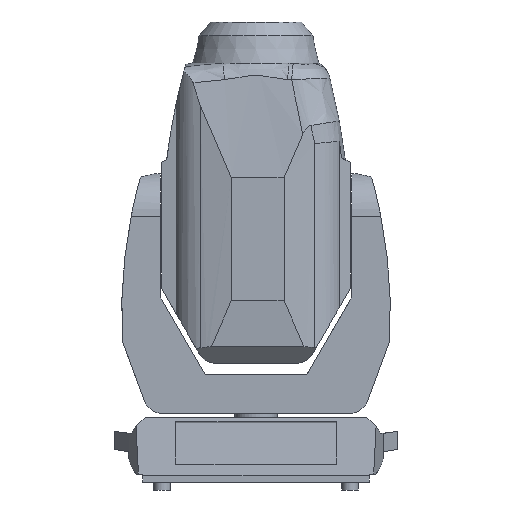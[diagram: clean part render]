
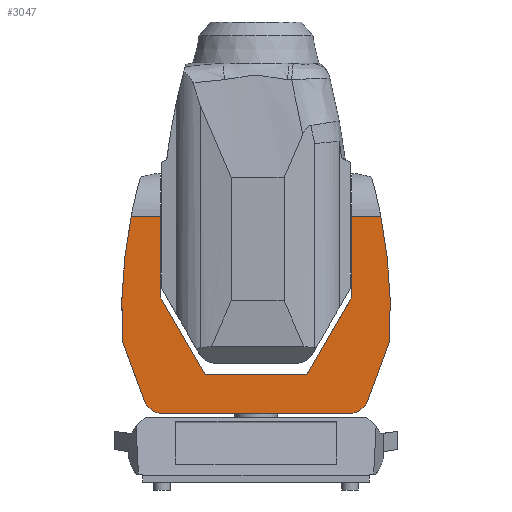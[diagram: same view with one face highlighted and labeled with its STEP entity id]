
A CAD part, left-side view. The second image highlights one B-rep face of the part: STEP entity #3047.
In plain terms, the highlighted planar face has unit normal (-1, -0.001, 0) as drawn and (1, 0, 0) by its records, which use the part's own axes.
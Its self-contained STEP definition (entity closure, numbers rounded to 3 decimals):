
#418=LINE('',#5635,#644);
#423=LINE('',#5652,#649);
#430=LINE('',#5706,#656);
#431=LINE('',#5707,#657);
#432=LINE('',#5709,#658);
#433=LINE('',#5711,#659);
#434=LINE('',#5712,#660);
#435=LINE('',#5713,#661);
#436=LINE('',#5717,#662);
#437=LINE('',#5721,#663);
#644=VECTOR('',#4089,1000.);
#649=VECTOR('',#4102,1000.);
#656=VECTOR('',#4131,1000.);
#657=VECTOR('',#4132,1000.);
#658=VECTOR('',#4133,1000.);
#659=VECTOR('',#4134,1000.);
#660=VECTOR('',#4135,1000.);
#661=VECTOR('',#4136,1000.);
#662=VECTOR('',#4139,1000.);
#663=VECTOR('',#4142,1000.);
#1423=ORIENTED_EDGE('',*,*,#1908,.F.);
#1424=ORIENTED_EDGE('',*,*,#1909,.T.);
#1425=ORIENTED_EDGE('',*,*,#1893,.F.);
#1426=ORIENTED_EDGE('',*,*,#1910,.F.);
#1427=ORIENTED_EDGE('',*,*,#1911,.F.);
#1428=ORIENTED_EDGE('',*,*,#1912,.F.);
#1429=ORIENTED_EDGE('',*,*,#1885,.F.);
#1430=ORIENTED_EDGE('',*,*,#1913,.F.);
#1431=ORIENTED_EDGE('',*,*,#1897,.F.);
#1432=ORIENTED_EDGE('',*,*,#1914,.F.);
#1433=ORIENTED_EDGE('',*,*,#1915,.F.);
#1434=ORIENTED_EDGE('',*,*,#1916,.F.);
#1435=ORIENTED_EDGE('',*,*,#1917,.F.);
#1436=ORIENTED_EDGE('',*,*,#1918,.F.);
#1885=EDGE_CURVE('',#2199,#2200,#418,.T.);
#1893=EDGE_CURVE('',#2207,#2208,#423,.T.);
#1897=EDGE_CURVE('',#2211,#2212,#2307,.T.);
#1908=EDGE_CURVE('',#2219,#2220,#2309,.T.);
#1909=EDGE_CURVE('',#2219,#2208,#430,.T.);
#1910=EDGE_CURVE('',#2221,#2207,#431,.T.);
#1911=EDGE_CURVE('',#2222,#2221,#432,.T.);
#1912=EDGE_CURVE('',#2200,#2222,#433,.T.);
#1913=EDGE_CURVE('',#2212,#2199,#434,.T.);
#1914=EDGE_CURVE('',#2223,#2211,#435,.T.);
#1915=EDGE_CURVE('',#2224,#2223,#2310,.T.);
#1916=EDGE_CURVE('',#2225,#2224,#436,.T.);
#1917=EDGE_CURVE('',#2226,#2225,#2311,.T.);
#1918=EDGE_CURVE('',#2220,#2226,#437,.T.);
#2199=VERTEX_POINT('',#5634);
#2200=VERTEX_POINT('',#5636);
#2207=VERTEX_POINT('',#5651);
#2208=VERTEX_POINT('',#5653);
#2211=VERTEX_POINT('',#5661);
#2212=VERTEX_POINT('',#5662);
#2219=VERTEX_POINT('',#5704);
#2220=VERTEX_POINT('',#5705);
#2221=VERTEX_POINT('',#5708);
#2222=VERTEX_POINT('',#5710);
#2223=VERTEX_POINT('',#5714);
#2224=VERTEX_POINT('',#5716);
#2225=VERTEX_POINT('',#5718);
#2226=VERTEX_POINT('',#5720);
#2307=CIRCLE('',#3362,773.248);
#2309=CIRCLE('',#3369,773.248);
#2310=CIRCLE('',#3370,30.);
#2311=CIRCLE('',#3371,30.);
#2524=EDGE_LOOP('',(#1423,#1424,#1425,#1426,#1427,#1428,#1429,#1430,#1431,
#1432,#1433,#1434,#1435,#1436));
#2756=FACE_BOUND('',#2524,.T.);
#2876=PLANE('',#3368);
#3047=ADVANCED_FACE('',(#2756),#2876,.F.);
#3362=AXIS2_PLACEMENT_3D('',#5660,#4110,#4111);
#3368=AXIS2_PLACEMENT_3D('',#5702,#4127,#4128);
#3369=AXIS2_PLACEMENT_3D('',#5703,#4129,#4130);
#3370=AXIS2_PLACEMENT_3D('',#5715,#4137,#4138);
#3371=AXIS2_PLACEMENT_3D('',#5719,#4140,#4141);
#4089=DIRECTION('',(0.,0.,-1.));
#4102=DIRECTION('',(0.,0.,1.));
#4110=DIRECTION('',(-1.,0.,0.));
#4111=DIRECTION('',(0.,1.,0.));
#4127=DIRECTION('',(-1.,0.,0.));
#4128=DIRECTION('',(0.,-1.,0.));
#4129=DIRECTION('',(-1.,0.,0.));
#4130=DIRECTION('',(0.,-1.,0.));
#4131=DIRECTION('',(0.,-1.,0.));
#4132=DIRECTION('',(0.,0.5,0.866));
#4133=DIRECTION('',(0.,1.,0.));
#4134=DIRECTION('',(0.,0.5,-0.866));
#4135=DIRECTION('',(0.,1.,0.));
#4136=DIRECTION('',(0.,-0.346,0.938));
#4137=DIRECTION('',(-1.,0.,0.));
#4138=DIRECTION('',(0.,1.,0.));
#4139=DIRECTION('',(0.,-1.,0.));
#4140=DIRECTION('',(-1.,0.,0.));
#4141=DIRECTION('',(0.,1.,0.));
#4142=DIRECTION('',(0.,-0.346,-0.938));
#5634=CARTESIAN_POINT('',(66.5,-147.537,384.203));
#5635=CARTESIAN_POINT('',(66.5,-147.537,259.62));
#5636=CARTESIAN_POINT('',(66.5,-147.537,259.62));
#5651=CARTESIAN_POINT('',(66.5,147.537,259.62));
#5652=CARTESIAN_POINT('',(66.5,147.537,259.62));
#5653=CARTESIAN_POINT('',(66.5,147.537,384.203));
#5660=CARTESIAN_POINT('',(66.5,566.006,234.142));
#5661=CARTESIAN_POINT('',(66.5,-206.02,190.696));
#5662=CARTESIAN_POINT('',(66.5,-192.541,384.203));
#5702=CARTESIAN_POINT('',(66.5,-144.326,110.088));
#5703=CARTESIAN_POINT('',(66.5,-566.006,234.142));
#5704=CARTESIAN_POINT('',(66.5,192.541,384.203));
#5705=CARTESIAN_POINT('',(66.5,206.02,190.696));
#5706=CARTESIAN_POINT('',(66.5,571.794,384.203));
#5707=CARTESIAN_POINT('',(66.5,78.41,139.888));
#5708=CARTESIAN_POINT('',(66.5,78.41,139.888));
#5709=CARTESIAN_POINT('',(66.5,-78.41,139.888));
#5710=CARTESIAN_POINT('',(66.5,-78.41,139.888));
#5711=CARTESIAN_POINT('',(66.5,-78.41,139.888));
#5712=CARTESIAN_POINT('',(66.5,-571.794,384.203));
#5713=CARTESIAN_POINT('',(66.5,-206.02,190.696));
#5714=CARTESIAN_POINT('',(66.5,-172.397,99.506));
#5715=CARTESIAN_POINT('',(66.5,-144.326,110.088));
#5716=CARTESIAN_POINT('',(66.5,-144.326,80.088));
#5717=CARTESIAN_POINT('',(66.5,-144.326,80.088));
#5718=CARTESIAN_POINT('',(66.5,144.326,80.088));
#5719=CARTESIAN_POINT('',(66.5,144.326,110.088));
#5720=CARTESIAN_POINT('',(66.5,172.397,99.506));
#5721=CARTESIAN_POINT('',(66.5,206.02,190.696));
